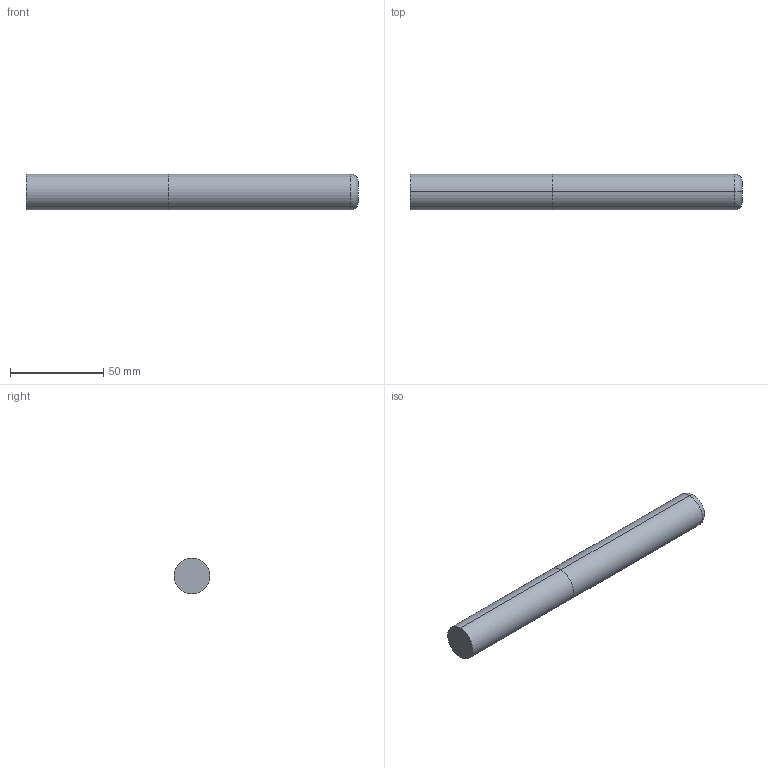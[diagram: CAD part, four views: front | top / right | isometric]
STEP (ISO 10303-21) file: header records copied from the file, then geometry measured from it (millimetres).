
FILE_DESCRIPTION (( 'STEP AP214' ), '1' );
FILE_NAME ('SSIX50750-156.STEP', '2025-05-28T20:34:50', ( '' ), ( '' ), 'SwSTEP 2.0', 'SolidWorks 2023', '' );
FILE_SCHEMA (( 'AUTOMOTIVE_DESIGN' ));
Length unit declared in the file: inch
Products named in the file (3): SSI5 Imperial SHANK ONLY_SSIX50750-156; SSI5 Imperial LOC ONLY_SSIX50750-156; SSIX50750-156
Assembly tree (2 placements, depth 2):
  SSIX50750-156
    SSI5 Imperial LOC ONLY_SSIX50750-156
    SSI5 Imperial SHANK ONLY_SSIX50750-156
Bounding box: 177.8 x 19.05 x 19.05 mm (x, y, z)
Volume: 50494.2 mm3; surface area: 11672.2 mm2
Topology: 2 solids, 2 shells, 10 faces, 16 edges, 10 vertices
Faces by surface type: cylinder 4, plane 4, torus 2
Entity records: 412 total; most frequent: DIRECTION 58, CARTESIAN_POINT 41, ORIENTED_EDGE 32, AXIS2_PLACEMENT_3D 27, EDGE_CURVE 16, CIRCLE 12, LENGTH_MEASURE_WITH_UNIT 11, DIMENSIONAL_EXPONENTS 11
